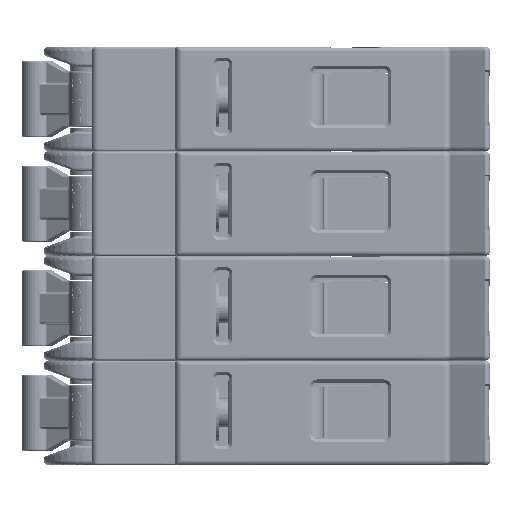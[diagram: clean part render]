
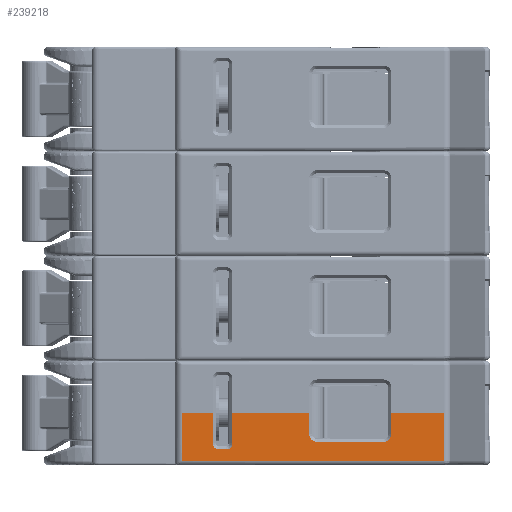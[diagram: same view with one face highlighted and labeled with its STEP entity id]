
A CAD part, left-side view. The second image highlights one B-rep face of the part: STEP entity #239218.
In plain terms, the highlighted planar face has unit normal (-1, 0, 0).
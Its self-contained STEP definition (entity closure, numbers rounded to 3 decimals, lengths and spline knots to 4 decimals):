
#216881=DIRECTION('',(0.,1.,0.));
#216882=VECTOR('',#216881,0.199);
#216883=CARTESIAN_POINT('',(-1.73,-0.056,-2.064));
#216884=LINE('',#216883,#216882);
#217129=DIRECTION('',(0.,1.,0.));
#217130=VECTOR('',#217129,0.505);
#217131=CARTESIAN_POINT('',(-1.73,-0.691,-2.064));
#217132=LINE('',#217131,#217130);
#217283=DIRECTION('',(0.,1.,0.));
#217284=VECTOR('',#217283,0.3436);
#217285=CARTESIAN_POINT('',(-1.73,-1.5746,-2.064));
#217286=LINE('',#217285,#217284);
#217659=DIRECTION('',(0.,0.,1.));
#217660=VECTOR('',#217659,0.139);
#217661=CARTESIAN_POINT('',(-1.73,-0.691,
-2.203));
#217662=LINE('',#217661,#217660);
#217663=CARTESIAN_POINT('',(-1.73,-0.742,-2.203));
#217664=DIRECTION('',(1.,0.,0.));
#217665=DIRECTION('',(0.,0.,-1.));
#217666=AXIS2_PLACEMENT_3D('',#217663,#217664,#217665);
#217668=DIRECTION('',(0.,1.,0.));
#217669=VECTOR('',#217668,0.438);
#217670=CARTESIAN_POINT('',(-1.73,-1.18,
-2.254));
#217671=LINE('',#217670,#217669);
#217672=CARTESIAN_POINT('',(-1.73,-1.18,-2.203));
#217673=DIRECTION('',(1.,0.,0.));
#217674=DIRECTION('',(0.,-1.,0.));
#217675=AXIS2_PLACEMENT_3D('',#217672,#217673,#217674);
#217677=DIRECTION('',(0.,0.,-1.));
#217678=VECTOR('',#217677,0.139);
#217679=CARTESIAN_POINT('',(-1.73,-1.231,-2.064));
#217680=LINE('',#217679,#217678);
#217681=DIRECTION('',(0.,0.,1.));
#217682=VECTOR('',#217681,0.313);
#217683=CARTESIAN_POINT('',(-1.73,-1.5746,-2.377));
#217684=LINE('',#217683,#217682);
#217685=DIRECTION('',(0.,1.,0.));
#217686=VECTOR('',#217685,1.7176);
#217687=CARTESIAN_POINT('',(-1.73,-1.5746,-2.377));
#217688=LINE('',#217687,#217686);
#217689=DIRECTION('',(0.,0.,-1.));
#217690=VECTOR('',#217689,0.313);
#217691=CARTESIAN_POINT('',(-1.73,0.143,-2.064));
#217692=LINE('',#217691,#217690);
#217693=DIRECTION('',(0.,0.,1.));
#217694=VECTOR('',#217693,0.2);
#217695=CARTESIAN_POINT('',(-1.73,-0.056,
-2.264));
#217696=LINE('',#217695,#217694);
#217697=CARTESIAN_POINT('',(-1.73,-0.096,-2.264));
#217698=DIRECTION('',(1.,0.,0.));
#217699=DIRECTION('',(0.,0.,-1.));
#217700=AXIS2_PLACEMENT_3D('',#217697,#217698,#217699);
#217702=DIRECTION('',(0.,1.,0.));
#217703=VECTOR('',#217702,0.05);
#217704=CARTESIAN_POINT('',(-1.73,-0.146,
-2.304));
#217705=LINE('',#217704,#217703);
#217706=CARTESIAN_POINT('',(-1.73,-0.146,-2.264));
#217707=DIRECTION('',(1.,0.,0.));
#217708=DIRECTION('',(0.,-1.,0.));
#217709=AXIS2_PLACEMENT_3D('',#217706,#217707,#217708);
#217711=DIRECTION('',(0.,0.,-1.));
#217712=VECTOR('',#217711,0.2);
#217713=CARTESIAN_POINT('',(-1.73,-0.186,-2.064));
#217714=LINE('',#217713,#217712);
#233754=CARTESIAN_POINT('',(-1.73,0.143,-2.064));
#233756=VERTEX_POINT('',#233754);
#233757=CARTESIAN_POINT('',(-1.73,0.143,-2.377));
#233758=VERTEX_POINT('',#233757);
#233763=CARTESIAN_POINT('',(-1.73,-1.5746,-2.377));
#233764=VERTEX_POINT('',#233763);
#233825=CARTESIAN_POINT('',(-1.73,-1.5746,-2.064));
#233827=VERTEX_POINT('',#233825);
#233905=CARTESIAN_POINT('',(-1.73,-0.056,-2.064));
#233907=VERTEX_POINT('',#233905);
#233911=CARTESIAN_POINT('',(-1.73,-0.056,
-2.264));
#233912=VERTEX_POINT('',#233911);
#233913=CARTESIAN_POINT('',(-1.73,-0.096,-2.304));
#233914=VERTEX_POINT('',#233913);
#233917=CARTESIAN_POINT('',(-1.73,-0.146,
-2.304));
#233918=VERTEX_POINT('',#233917);
#233921=CARTESIAN_POINT('',(-1.73,-0.186,-2.264));
#233922=VERTEX_POINT('',#233921);
#233926=CARTESIAN_POINT('',(-1.73,-0.186,-2.064));
#233928=VERTEX_POINT('',#233926);
#238570=CARTESIAN_POINT('',(-1.73,-0.691,-2.064));
#238572=VERTEX_POINT('',#238570);
#238576=CARTESIAN_POINT('',(-1.73,-0.691,
-2.203));
#238577=VERTEX_POINT('',#238576);
#238578=CARTESIAN_POINT('',(-1.73,-0.742,-2.254));
#238579=VERTEX_POINT('',#238578);
#238582=CARTESIAN_POINT('',(-1.73,-1.18,
-2.254));
#238583=VERTEX_POINT('',#238582);
#238586=CARTESIAN_POINT('',(-1.73,-1.231,-2.203));
#238587=VERTEX_POINT('',#238586);
#238591=CARTESIAN_POINT('',(-1.73,-1.231,-2.064));
#238593=VERTEX_POINT('',#238591);
#239182=CARTESIAN_POINT('',(-1.73,0.19,-2.064));
#239183=DIRECTION('',(-1.,0.,0.));
#239184=DIRECTION('',(0.,-1.,0.));
#239185=AXIS2_PLACEMENT_3D('',#239182,#239183,#239184);
#239186=PLANE('',#239185);
#239188=ORIENTED_EDGE('',*,*,#239187,.F.);
#239190=ORIENTED_EDGE('',*,*,#239189,.F.);
#239192=ORIENTED_EDGE('',*,*,#239191,.F.);
#239194=ORIENTED_EDGE('',*,*,#239193,.F.);
#239196=ORIENTED_EDGE('',*,*,#239195,.F.);
#239197=ORIENTED_EDGE('',*,*,#238869,.F.);
#239199=ORIENTED_EDGE('',*,*,#239198,.F.);
#239201=ORIENTED_EDGE('',*,*,#239200,.T.);
#239203=ORIENTED_EDGE('',*,*,#239202,.F.);
#239204=ORIENTED_EDGE('',*,*,#238641,.F.);
#239206=ORIENTED_EDGE('',*,*,#239205,.F.);
#239208=ORIENTED_EDGE('',*,*,#239207,.F.);
#239210=ORIENTED_EDGE('',*,*,#239209,.F.);
#239212=ORIENTED_EDGE('',*,*,#239211,.F.);
#239214=ORIENTED_EDGE('',*,*,#239213,.F.);
#239215=ORIENTED_EDGE('',*,*,#238779,.F.);
#239216=EDGE_LOOP('',(#239188,#239190,#239192,#239194,#239196,#239197,#239199,
#239201,#239203,#239204,#239206,#239208,#239210,#239212,#239214,#239215));
#239217=FACE_OUTER_BOUND('',#239216,.F.);
#239218=ADVANCED_FACE('',(#239217),#239186,.T.);
#217667=CIRCLE('',#217666,0.051);
#217676=CIRCLE('',#217675,0.051);
#217701=CIRCLE('',#217700,0.04);
#217710=CIRCLE('',#217709,0.04);
#238641=EDGE_CURVE('',#233907,#233756,#216884,.T.);
#238779=EDGE_CURVE('',#238572,#233928,#217132,.T.);
#238869=EDGE_CURVE('',#233827,#238593,#217286,.T.);
#239187=EDGE_CURVE('',#238577,#238572,#217662,.T.);
#239189=EDGE_CURVE('',#238579,#238577,#217667,.T.);
#239191=EDGE_CURVE('',#238583,#238579,#217671,.T.);
#239193=EDGE_CURVE('',#238587,#238583,#217676,.T.);
#239195=EDGE_CURVE('',#238593,#238587,#217680,.T.);
#239198=EDGE_CURVE('',#233764,#233827,#217684,.T.);
#239200=EDGE_CURVE('',#233764,#233758,#217688,.T.);
#239202=EDGE_CURVE('',#233756,#233758,#217692,.T.);
#239205=EDGE_CURVE('',#233912,#233907,#217696,.T.);
#239207=EDGE_CURVE('',#233914,#233912,#217701,.T.);
#239209=EDGE_CURVE('',#233918,#233914,#217705,.T.);
#239211=EDGE_CURVE('',#233922,#233918,#217710,.T.);
#239213=EDGE_CURVE('',#233928,#233922,#217714,.T.);
